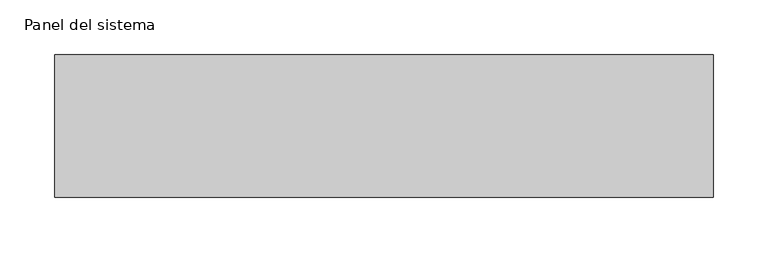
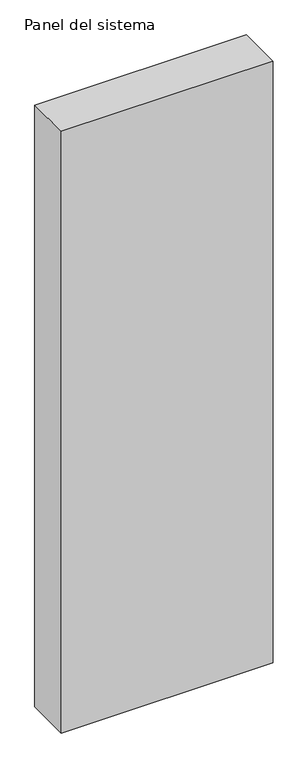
"""IFC4 building model written with IfcOpenShell, lengths in millimetres: plate geometry, Panel del sistema : HIANSA - CHAPA PERFILADA CUBIERTA - BANDEJA 130.600 Vert."""

from ifc_helpers import new_model, si_unit, origin, origin_with_axes, place, context, project, spatial, polyline, outline, extrude, source, transform, mapped, element, save


def panel_del_sistema_439805da(model_context):
    return source(origin(), model_context, "Body", "SweptSolid", [
        extrude(outline(polyline([(300.0000002, -130.0), (-300.0000002, -130.0), (-300.0000002, 0.0), (300.0000002, 0.0), (300.0000002, -130.0)])), origin_with_axes(), (0.0, 0.0, 1.0), 1800.0),
    ])


if __name__ == "__main__":
    model = new_model("IFC4")
    model_context = context("Model", 3, world=origin())
    ifc_project = project(units=[si_unit("LENGTHUNIT", "METRE", prefix="MILLI")], contexts=[model_context])
    site = spatial("IfcSite", under=ifc_project)
    building = spatial("IfcBuilding", under=site)
    placement = place(None, origin())
    panel_del_sistema_shape = panel_del_sistema_439805da(model_context)
    element("IfcPlate", 1, ObjectType="Panel del sistema : HIANSA - CHAPA PERFILADA CUBIERTA - BANDEJA 130.600 Vert", at=placement, inside=building, context=model_context, shape_type="MappedRepresentation", body=[
        mapped(panel_del_sistema_shape, transform((0.0, 0.0, 0.0), x_axis=(1.0, 0.0, 0.0), y_axis=(0.0, 1.0, 0.0), z_axis=(0.0, 0.0, 1.0))),
    ])
    save(model, "model.ifc")
